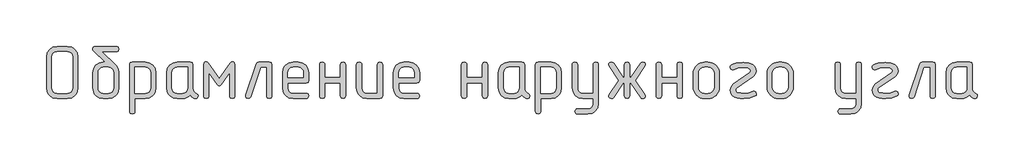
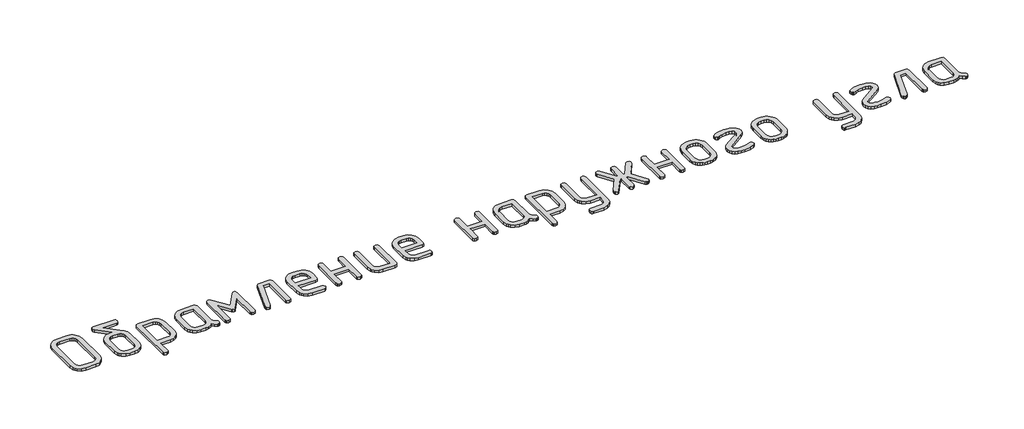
# One storey, part 19 of 37: 1 proxy.
"""IFC4 building model written with IfcOpenShell, lengths in millimetres."""

import ifcopenshell
import ifcopenshell.guid

model = None  # the IFC model being written
_history = None  # IfcOwnerHistory: only IFC2X3 demands one
_inside = {}  # id of a spatial element -> (the spatial element, [elements in it])
_under = {}  # id of a project, library or spatial element -> (it, [spatial elements below it])
_declared = {}  # id of a project -> (the project, [libraries it declares])
_typed = {}  # id of a type object -> (the type object, [elements of that type])
_made_of = {}  # id of a material, layer set ... -> (it, [elements and type objects made of it])


def new_model(schema):
    """Start an empty IFC model of exactly this schema.

    Asked for "IFC4X3", IfcOpenShell would pick the latest addendum, in which some entities
    have other attributes; the version numbers below select the first issue.
    IFC2X3 requires an IfcOwnerHistory on every rooted entity: one is made here for all.
    """
    global model, _history
    if schema == "IFC4X3":
        model = ifcopenshell.file(schema_version=(4, 3, 0, 0))
    else:
        model = ifcopenshell.file(schema=schema)
    _inside.clear()
    _under.clear()
    _declared.clear()
    _typed.clear()
    _made_of.clear()
    _history = None
    if model.schema == "IFC2X3":
        org = make("IfcOrganization", Name="unknown")
        user = make(
            "IfcPersonAndOrganization",
            ThePerson=make("IfcPerson", FamilyName="unknown"),
            TheOrganization=org,
        )
        app = make(
            "IfcApplication",
            ApplicationDeveloper=org,
            Version="unknown",
            ApplicationFullName="unknown",
            ApplicationIdentifier="unknown",
        )
        _history = make(
            "IfcOwnerHistory",
            OwningUser=user,
            OwningApplication=app,
            ChangeAction="ADDED",
            CreationDate=0,
        )
    return model


def make(cls, **values):
    """One entity of the class cls with the attributes given. An attribute that is None is left unset."""
    return model.create_entity(
        cls, **{name: value for name, value in values.items() if value is not None}
    )


def rooted(cls, **values):
    """An entity with a GlobalId (a new one), such as an element, a storey or a relation."""
    return make(cls, GlobalId=ifcopenshell.guid.new(), OwnerHistory=_history, **values)


def si_unit(unit_type, name, prefix=None):
    """IfcSIUnit, for example si_unit("LENGTHUNIT", "METRE", prefix="MILLI")."""
    return make("IfcSIUnit", UnitType=unit_type, Prefix=prefix, Name=name)


def assignment(units):
    """IfcUnitAssignment: the units of a project."""
    return None if units is None else make("IfcUnitAssignment", Units=units)


def point(xyz):
    """IfcCartesianPoint."""
    return None if xyz is None else make("IfcCartesianPoint", Coordinates=xyz)


def direction(xyz):
    """IfcDirection."""
    return None if xyz is None else make("IfcDirection", DirectionRatios=xyz)


def frame(location, z_axis=None, x_axis=None):
    """IfcAxis2Placement3D, a coordinate frame: its origin and axes. An axis left out is left unset."""
    return make(
        "IfcAxis2Placement3D",
        Location=point(location),
        Axis=direction(z_axis),
        RefDirection=direction(x_axis),
    )


def origin():
    """The frame at (0, 0, 0) with its axes left unset."""
    return frame((0.0, 0.0, 0.0))


def origin_with_axes():
    """The frame at (0, 0, 0) with the z axis (0, 0, 1) and the x axis (1, 0, 0) written out."""
    return frame((0.0, 0.0, 0.0), z_axis=(0.0, 0.0, 1.0), x_axis=(1.0, 0.0, 0.0))


def place(relative_to, where):
    """IfcLocalPlacement: puts the frame where relative to a parent placement (None: the world)."""
    return make(
        "IfcLocalPlacement", PlacementRelTo=relative_to, RelativePlacement=where
    )


def context(
    kind, dimensions, precision=None, world=None, true_north=None, identifier=None
):
    """IfcGeometricRepresentationContext, for example the 3D "Model" context."""
    return make(
        "IfcGeometricRepresentationContext",
        ContextIdentifier=identifier,
        ContextType=kind,
        CoordinateSpaceDimension=dimensions,
        Precision=precision,
        WorldCoordinateSystem=world,
        TrueNorth=true_north,
    )


def project(units=None, contexts=None):
    """IfcProject with its units and contexts."""
    return rooted(
        "IfcProject",
        Name="project",
        RepresentationContexts=contexts,
        UnitsInContext=assignment(units),
    )


def spatial(cls, under=None, at=None, **own):
    """A site, building, storey or space (cls), placed at a placement, below another one or the project."""
    s = rooted(cls, ObjectPlacement=at, **own)
    if under is not None:
        _under.setdefault(under.id(), (under, []))[1].append(s)
    return s


def polyline(points):
    """IfcPolyline through the points."""
    return make("IfcPolyline", Points=[point(p) for p in points])


def outline(outer, holes=None, kind="AREA"):
    """IfcArbitraryClosedProfileDef: a profile drawn as a closed curve; with holes, ...WithVoids."""
    if holes is None:
        return make("IfcArbitraryClosedProfileDef", ProfileType=kind, OuterCurve=outer)
    return make(
        "IfcArbitraryProfileDefWithVoids",
        ProfileType=kind,
        OuterCurve=outer,
        InnerCurves=holes,
    )


def extrude(swept, where, along, depth):
    """IfcExtrudedAreaSolid: the profile swept, set in the frame where, extruded along a direction by depth."""
    return make(
        "IfcExtrudedAreaSolid",
        SweptArea=swept,
        Position=where,
        ExtrudedDirection=direction(along),
        Depth=depth,
    )


def shape(context_of_items, identifier, shape_type, items):
    """IfcShapeRepresentation: the items that make up one representation, for example the "Body"."""
    return make(
        "IfcShapeRepresentation",
        ContextOfItems=context_of_items,
        RepresentationIdentifier=identifier,
        RepresentationType=shape_type,
        Items=items,
    )


def made_of(thing, what):
    """Note that an element or type object is made of a material, layer set ...; save() writes the relation."""
    if what is not None:
        _made_of.setdefault(what.id(), (what, []))[1].append(thing)
    return thing


def element(
    cls,
    number,
    at=None,
    inside=None,
    cuts=None,
    type_object=None,
    material=None,
    context=None,
    identifier="Body",
    shape_type=None,
    held_by="IfcProductDefinitionShape",
    body=None,
    shapes=None,
    **own,
):
    """One element of the class cls, such as IfcWall. Its Tag is "e" and its number.

    at: its placement. inside: the storey or other place that contains it. cuts: it is an
    opening in that element (IfcRelVoidsElement). A single representation is given by context,
    identifier, shape_type and body (its items); several are given by shapes. held_by: the class
    of the entity that holds the representations. save() writes the other relations.
    """
    e = rooted(cls, Tag="e%d" % number, ObjectPlacement=at, **own)
    if body is not None:
        shapes = [shape(context, identifier, shape_type, body)]
    if shapes is not None:
        e.Representation = make(held_by, Representations=shapes)
    if inside is not None:
        _inside.setdefault(inside.id(), (inside, []))[1].append(e)
    if cuts is not None:
        rooted(
            "IfcRelVoidsElement", RelatingBuildingElement=cuts, RelatedOpeningElement=e
        )
    if type_object is not None:
        _typed.setdefault(type_object.id(), (type_object, []))[1].append(e)
    return made_of(e, material)


def aggregate(whole, parts):
    """IfcRelAggregates: a whole, such as a stair, and the parts it consists of."""
    return rooted("IfcRelAggregates", RelatingObject=whole, RelatedObjects=parts)


def save(model, path):
    """Write the relations noted so far, then the file.

    IfcRelAggregates (storeys below a building ...), IfcRelContainedInSpatialStructure (elements
    in a storey), IfcRelDefinesByType, IfcRelAssociatesMaterial and IfcRelDeclares: one each for
    every whole, place, type object, material and project.
    """
    for whole, parts in _under.values():
        aggregate(whole, parts)
    for where, things in _inside.values():
        rooted(
            "IfcRelContainedInSpatialStructure",
            RelatedElements=things,
            RelatingStructure=where,
        )
    for kind, things in _typed.values():
        rooted("IfcRelDefinesByType", RelatedObjects=things, RelatingType=kind)
    for what, things in _made_of.values():
        rooted("IfcRelAssociatesMaterial", RelatedObjects=things, RelatingMaterial=what)
    for by, libraries in _declared.values():
        rooted("IfcRelDeclares", RelatingContext=by, RelatedDefinitions=libraries)
    model.write(path)


model = new_model("IFC4")

# Units and contexts
model_context = context("Model", 3, world=origin())
ifc_project = project(units=[si_unit("LENGTHUNIT", "METRE", prefix="MILLI")], contexts=[model_context])

# Site, building, storey
site = spatial("IfcSite", under=ifc_project)
building = spatial("IfcBuilding", under=site)
storey = spatial("IfcBuildingStorey", under=building, Name="Этаж 01", Elevation=0.0)

# Proxy
placement = place(None, origin())
element("IfcBuildingElementProxy", 1, Name="400 мм ГОСТ 2.304", ObjectType="400 мм ГОСТ 2.304", at=placement, inside=storey, context=model_context, shape_type="SweptSolid", body=[
    extrude(outline(polyline([(35529.9614469, -13429.4392879), (35524.0713089, -13460.9629021), (35516.7086364, -13474.7339437), (35506.4008948, -13487.1778083), (35480.7926982, -13504.3931902), (35449.8757935, -13510.1316508), (35369.1834306, -13510.1316508), (35338.1148485, -13504.3931902), (35312.0516197, -13487.1778083), (35301.7438782, -13474.7339437), (35294.3812057, -13460.9629021), (35288.4910677, -13429.4392879), (35288.4910677, -13187.9689087), (35294.3812057, -13156.9003266), (35312.0516197, -13130.8370978), (35338.1148485, -13113.1666838), (35369.1834306, -13107.2765458), (35449.8757935, -13107.2765458), (35480.7926982, -13113.1666838), (35494.260385, -13120.5293563), (35506.4008948, -13130.8370978), (35524.0713089, -13156.9003266), (35529.9614469, -13187.9689087), (35529.9614469, -13429.4392879)]), holes=[polyline([(35489.9186202, -13429.4392879), (35489.9186202, -13187.9689087), (35486.9735512, -13172.2829403), (35478.1383442, -13159.4030033), (35465.1825685, -13150.7953123), (35449.8757935, -13147.926082), (35369.1834306, -13147.926082), (35353.4974622, -13150.7953123), (35340.6175252, -13159.4030033), (35332.0098342, -13172.2829403), (35329.1406039, -13187.9689087), (35329.1406039, -13429.4392879), (35332.0098342, -13445.201095), (35340.6175252, -13458.3085481), (35353.4974622, -13467.1437551), (35369.1834306, -13470.0888241), (35449.8757935, -13470.0888241), (35465.1825685, -13467.1437551), (35478.1383442, -13458.3085481), (35486.9735512, -13445.201095), (35489.9186202, -13429.4392879)])]), origin_with_axes(), (0.0, 0.0, 1.0), 20.0),
    extrude(outline(polyline([(35740.9952331, -13228.6184449), (35650.898873, -13142.0612235), (35645.1351328, -13134.4015161), (35643.2138861, -13125.5789489), (35648.5225942, -13112.5852538), (35655.3101567, -13108.6037228), (35665.0554279, -13107.2765458), (35825.8334443, -13107.2765458), (35834.5928126, -13108.7554002), (35840.8495043, -13113.1919633), (35845.8548576, -13127.9046686), (35840.5461495, -13141.7578688), (35834.2136192, -13146.3840287), (35825.8334443, -13147.926082), (35715.1089613, -13147.926082), (35821.687596, -13249.8532772), (35826.4401538, -13256.3248452), (35841.0011817, -13280.593225), (35845.8548576, -13308.7040983), (35845.8548576, -13429.4392879), (35839.9647196, -13460.9629021), (35832.6020471, -13474.7339437), (35822.2943055, -13487.1778083), (35796.5344315, -13504.3931902), (35765.1624947, -13510.1316508), (35725.119668, -13510.1316508), (35694.0510859, -13504.3931902), (35667.9878572, -13487.1778083), (35657.6801156, -13474.7339437), (35650.3174431, -13460.9629021), (35644.4273051, -13429.4392879), (35644.4273051, -13308.7040983), (35650.3174431, -13278.0905483), (35667.9878572, -13252.178997), (35694.0510859, -13234.5085829), (35725.119668, -13228.6184449), (35740.9952331, -13228.6184449)]), holes=[polyline([(35805.8120309, -13429.4392879), (35805.8120309, -13308.7040983), (35802.8669619, -13293.3973233), (35794.0317549, -13280.4415476), (35780.9243018, -13271.6063406), (35765.1624947, -13268.6612716), (35725.119668, -13268.6612716), (35709.4336996, -13271.6063406), (35696.5537626, -13280.4415476), (35687.9460716, -13293.3973233), (35685.0768413, -13308.7040983), (35685.0768413, -13429.4392879), (35687.9460716, -13445.201095), (35696.5537626, -13458.3085481), (35709.4336996, -13467.1437551), (35725.119668, -13470.0888241), (35765.1624947, -13470.0888241), (35780.9243018, -13467.1437551), (35794.0317549, -13458.3085481), (35802.8669619, -13445.201095), (35805.8120309, -13429.4392879)])]), origin_with_axes(), (0.0, 0.0, 1.0), 20.0),
    extrude(outline(polyline([(35969.8258312, -13510.1316508), (35969.8258312, -13610.8454271), (35968.4228155, -13619.6047955), (35964.2137684, -13625.8614871), (35949.8044179, -13630.8668405), (35935.3445082, -13625.5581324), (35930.7183483, -13619.225602), (35929.176295, -13610.8454271), (35929.176295, -13248.6398582), (35930.4655527, -13239.8804899), (35934.3333257, -13233.6237982), (35949.8044179, -13228.6184449), (36049.9114846, -13228.6184449), (36081.2834215, -13234.3569055), (36107.0432955, -13251.5722875), (36124.7137095, -13277.6355162), (36130.6038476, -13308.7040983), (36130.6038476, -13429.4392879), (36124.7137095, -13460.9629021), (36117.351037, -13474.7339437), (36107.0432955, -13487.1778083), (36081.2834215, -13504.3931902), (36049.9114846, -13510.1316508), (35969.8258312, -13510.1316508)]), holes=[polyline([(35969.8258312, -13470.0888241), (36049.9114846, -13470.0888241), (36065.6732918, -13467.1437551), (36078.7807448, -13458.3085481), (36087.6159518, -13445.201095), (36090.5610209, -13429.4392879), (36090.5610209, -13308.7040983), (36087.6159518, -13293.3973233), (36078.7807448, -13280.4415476), (36065.6732918, -13271.6063406), (36049.9114846, -13268.6612716), (35969.8258312, -13268.6612716), (35969.8258312, -13470.0888241)])]), origin_with_axes(), (0.0, 0.0, 1.0), 20.0),
    extrude(outline(polyline([(36394.7247146, -13483.6386695), (36382.7927612, -13494.2813653), (36368.2317333, -13502.7500186), (36351.9011361, -13508.2862428), (36334.6604746, -13510.1316508), (36294.6176479, -13510.1316508), (36263.5490658, -13504.3931902), (36237.485837, -13487.1778083), (36227.1780955, -13474.7339437), (36219.815423, -13460.9629021), (36213.925285, -13429.4392879), (36213.925285, -13308.7040983), (36219.815423, -13278.0905483), (36237.485837, -13252.178997), (36263.5490658, -13234.5085829), (36294.6176479, -13228.6184449), (36395.3314241, -13228.6184449), (36410.3474842, -13233.6237982), (36415.3528375, -13248.6398582), (36415.3528375, -13429.4392879), (36417.2614445, -13442.4709023), (36422.9872653, -13454.4660546), (36431.8224723, -13464.5399602), (36443.0592378, -13471.8078344), (36452.7665897, -13478.9113914), (36456.0023737, -13489.503528), (36450.3903109, -13504.2667924), (36443.9819418, -13509.1204684), (36435.9809603, -13510.7383603), (36427.6892639, -13508.4126406), (36409.1340652, -13497.7699449), (36394.7247146, -13483.6386695)]), holes=[polyline([(36375.3100108, -13429.4392879), (36375.3100108, -13268.6612716), (36294.6176479, -13268.6612716), (36278.9316795, -13271.6063406), (36266.0517425, -13280.4415476), (36257.4440515, -13293.3973233), (36254.5748212, -13308.7040983), (36254.5748212, -13429.4392879), (36257.4440515, -13445.201095), (36266.0517425, -13458.3085481), (36278.9316795, -13467.1437551), (36294.6176479, -13470.0888241), (36334.6604746, -13470.0888241), (36350.4222817, -13467.1437551), (36363.5297347, -13458.3085481), (36372.3649418, -13445.201095), (36375.3100108, -13429.4392879)])]), origin_with_axes(), (0.0, 0.0, 1.0), 20.0),
    extrude(outline(polyline([(36740.1446541, -13490.1102375), (36738.6657998, -13498.4904124), (36734.2292366, -13504.8229428), (36720.1232408, -13510.1316508), (36705.6633311, -13505.1262975), (36701.4922034, -13498.8696058), (36700.1018274, -13490.1102375), (36700.1018274, -13311.029818), (36635.8917392, -13401.2272964), (36627.6253223, -13409.1145198), (36619.4094645, -13411.7435943), (36610.890252, -13409.1145198), (36602.9271899, -13401.2272964), (36539.3238111, -13311.029818), (36539.3238111, -13490.1102375), (36537.7817578, -13498.4904124), (36533.1555979, -13504.8229428), (36519.3023977, -13510.1316508), (36504.2863377, -13505.1262975), (36500.0772906, -13498.8696058), (36498.6742749, -13490.1102375), (36498.6742749, -13248.6398582), (36503.6796282, -13231.2475194), (36509.35489, -13226.6213595), (36516.3699685, -13225.0793062), (36526.7851482, -13228.037015), (36535.7846724, -13236.9101413), (36619.4094645, -13354.6117835), (36703.6409662, -13236.9101413), (36712.7416086, -13228.037015), (36722.4489605, -13225.0793062), (36729.4640391, -13226.6213595), (36735.1393008, -13231.2475194), (36740.1446541, -13248.6398582), (36740.1446541, -13490.1102375)])), origin_with_axes(), (0.0, 0.0, 1.0), 20.0),
    extrude(outline(polyline([(37023.6802251, -13490.1102375), (37022.2772094, -13498.8696058), (37018.0681623, -13505.1262975), (37003.6588117, -13510.1316508), (36989.5022568, -13504.8229428), (36985.103613, -13498.4904124), (36983.6373984, -13490.1102375), (36983.6373984, -13268.6612716), (36937.1230037, -13268.6612716), (36861.6887898, -13496.5818054), (36854.3577167, -13506.5925121), (36843.4875049, -13510.1316508), (36829.0275953, -13504.8229428), (36824.4014353, -13498.6420898), (36822.859382, -13490.716947), (36824.072801, -13483.6386695), (36903.551745, -13242.1682903), (36910.7311407, -13232.0059062), (36922.9664488, -13228.6184449), (37003.6588117, -13228.6184449), (37018.6748718, -13233.6237982), (37023.6802251, -13248.6398582), (37023.6802251, -13490.1102375)])), origin_with_axes(), (0.0, 0.0, 1.0), 20.0),
    extrude(outline(polyline([(37147.6511987, -13389.3964612), (37147.6511987, -13429.4392879), (37150.520429, -13445.201095), (37159.12812, -13458.3085481), (37172.008057, -13467.1437551), (37187.6940254, -13470.0888241), (37288.4078017, -13470.0888241), (37297.16717, -13471.4918398), (37303.4238617, -13475.700887), (37308.429215, -13490.1102375), (37303.1205069, -13503.9634376), (37296.7879766, -13508.5895975), (37288.4078017, -13510.1316508), (37187.6940254, -13510.1316508), (37156.6254433, -13504.3931902), (37130.5622146, -13487.1778083), (37120.254473, -13474.7339437), (37112.8918005, -13460.9629021), (37107.0016625, -13429.4392879), (37107.0016625, -13308.7040983), (37112.8918005, -13277.7871936), (37120.254473, -13264.3195068), (37130.5622146, -13252.178997), (37156.6254433, -13234.5085829), (37187.6940254, -13228.6184449), (37227.7368521, -13228.6184449), (37259.1087889, -13234.3569055), (37284.868663, -13251.5722875), (37302.539077, -13277.6355162), (37308.429215, -13308.7040983), (37308.429215, -13369.3750479), (37303.4238617, -13384.3911079), (37288.4078017, -13389.3964612), (37147.6511987, -13389.3964612)]), holes=[polyline([(37147.6511987, -13349.3536345), (37268.3863883, -13349.3536345), (37268.3863883, -13308.7040983), (37265.4413193, -13293.3973233), (37256.6061123, -13280.4415476), (37243.4986592, -13271.6063406), (37227.7368521, -13268.6612716), (37187.6940254, -13268.6612716), (37172.008057, -13271.6063406), (37159.12812, -13280.4415476), (37150.520429, -13293.3973233), (37147.6511987, -13308.7040983), (37147.6511987, -13349.3536345)])]), origin_with_axes(), (0.0, 0.0, 1.0), 20.0),
    extrude(outline(polyline([(37553.1353783, -13349.3536345), (37553.1353783, -13248.6398582), (37554.6015929, -13240.2596833), (37559.0002367, -13233.927153), (37573.1567916, -13228.6184449), (37587.2627874, -13233.6237982), (37591.6993506, -13239.8804899), (37593.178205, -13248.6398582), (37593.178205, -13490.1102375), (37591.7751893, -13498.8696058), (37587.5661421, -13505.1262975), (37573.1567916, -13510.1316508), (37559.0002367, -13504.8229428), (37554.6015929, -13498.4904124), (37553.1353783, -13490.1102375), (37553.1353783, -13389.3964612), (37432.4001886, -13389.3964612), (37432.4001886, -13490.1102375), (37430.9971729, -13498.8696058), (37426.7881258, -13505.1262975), (37412.3787753, -13510.1316508), (37397.9188656, -13504.8229428), (37393.2927057, -13498.4904124), (37391.7506524, -13490.1102375), (37391.7506524, -13248.6398582), (37393.2295068, -13240.2596833), (37397.66607, -13233.927153), (37412.3787753, -13228.6184449), (37426.2319754, -13233.6237982), (37430.8581353, -13239.8804899), (37432.4001886, -13248.6398582), (37432.4001886, -13349.3536345), (37553.1353783, -13349.3536345)])), origin_with_axes(), (0.0, 0.0, 1.0), 20.0),
    extrude(outline(polyline([(37877.9271949, -13490.1102375), (37872.9218416, -13505.1262975), (37857.9057815, -13510.1316508), (37757.1920053, -13510.1316508), (37726.1234232, -13504.3931902), (37700.0601944, -13487.1778083), (37689.7524529, -13474.7339437), (37682.3897804, -13460.9629021), (37676.4996424, -13429.4392879), (37676.4996424, -13248.6398582), (37677.9784968, -13240.2596833), (37682.4150599, -13233.927153), (37697.1277652, -13228.6184449), (37710.9809654, -13233.6237982), (37715.6071253, -13239.8804899), (37717.1491786, -13248.6398582), (37717.1491786, -13429.4392879), (37720.0184089, -13445.201095), (37728.6260999, -13458.3085481), (37741.5060369, -13467.1437551), (37757.1920053, -13470.0888241), (37837.8843682, -13470.0888241), (37837.8843682, -13248.6398582), (37839.3505828, -13240.2596833), (37843.7492267, -13233.927153), (37857.9057815, -13228.6184449), (37872.0117773, -13233.6237982), (37876.4483405, -13239.8804899), (37877.9271949, -13248.6398582), (37877.9271949, -13490.1102375)])), origin_with_axes(), (0.0, 0.0, 1.0), 20.0),
    extrude(outline(polyline([(38001.8981685, -13389.3964612), (38001.8981685, -13429.4392879), (38004.7673988, -13445.201095), (38013.3750898, -13458.3085481), (38026.2550268, -13467.1437551), (38041.9409952, -13470.0888241), (38142.6547715, -13470.0888241), (38151.4141398, -13471.4918398), (38157.6708315, -13475.700887), (38162.6761848, -13490.1102375), (38157.3674768, -13503.9634376), (38151.0349464, -13508.5895975), (38142.6547715, -13510.1316508), (38041.9409952, -13510.1316508), (38010.8724131, -13504.3931902), (37984.8091844, -13487.1778083), (37974.5014428, -13474.7339437), (37967.1387703, -13460.9629021), (37961.2486323, -13429.4392879), (37961.2486323, -13308.7040983), (37967.1387703, -13277.7871936), (37974.5014428, -13264.3195068), (37984.8091844, -13252.178997), (38010.8724131, -13234.5085829), (38041.9409952, -13228.6184449), (38081.9838219, -13228.6184449), (38113.3557588, -13234.3569055), (38139.1156328, -13251.5722875), (38156.7860468, -13277.6355162), (38162.6761848, -13308.7040983), (38162.6761848, -13369.3750479), (38157.6708315, -13384.3911079), (38142.6547715, -13389.3964612), (38001.8981685, -13389.3964612)]), holes=[polyline([(38001.8981685, -13349.3536345), (38122.6333581, -13349.3536345), (38122.6333581, -13308.7040983), (38119.6882891, -13293.3973233), (38110.8530821, -13280.4415476), (38097.745629, -13271.6063406), (38081.9838219, -13268.6612716), (38041.9409952, -13268.6612716), (38026.2550268, -13271.6063406), (38013.3750898, -13280.4415476), (38004.7673988, -13293.3973233), (38001.8981685, -13308.7040983), (38001.8981685, -13349.3536345)])]), origin_with_axes(), (0.0, 0.0, 1.0), 20.0),
    extrude(outline(polyline([(38646.8303623, -13349.3536345), (38646.8303623, -13248.6398582), (38648.2965769, -13240.2596833), (38652.6952208, -13233.927153), (38666.8517757, -13228.6184449), (38680.9577715, -13233.6237982), (38685.3943346, -13239.8804899), (38686.873189, -13248.6398582), (38686.873189, -13490.1102375), (38685.4701733, -13498.8696058), (38681.2611262, -13505.1262975), (38666.8517757, -13510.1316508), (38652.6952208, -13504.8229428), (38648.2965769, -13498.4904124), (38646.8303623, -13490.1102375), (38646.8303623, -13389.3964612), (38526.0951727, -13389.3964612), (38526.0951727, -13490.1102375), (38524.692157, -13498.8696058), (38520.4831099, -13505.1262975), (38506.0737594, -13510.1316508), (38491.6138497, -13504.8229428), (38486.9876898, -13498.4904124), (38485.4456365, -13490.1102375), (38485.4456365, -13248.6398582), (38486.9244909, -13240.2596833), (38491.3610541, -13233.927153), (38506.0737594, -13228.6184449), (38519.9269595, -13233.6237982), (38524.5531194, -13239.8804899), (38526.0951727, -13248.6398582), (38526.0951727, -13349.3536345), (38646.8303623, -13349.3536345)])), origin_with_axes(), (0.0, 0.0, 1.0), 20.0),
    extrude(outline(polyline([(38950.9940561, -13483.6386695), (38939.0621027, -13494.2813653), (38924.5010748, -13502.7500186), (38908.1704776, -13508.2862428), (38890.9298161, -13510.1316508), (38850.8869894, -13510.1316508), (38819.8184073, -13504.3931902), (38793.7551785, -13487.1778083), (38783.447437, -13474.7339437), (38776.0847645, -13460.9629021), (38770.1946264, -13429.4392879), (38770.1946264, -13308.7040983), (38776.0847645, -13278.0905483), (38793.7551785, -13252.178997), (38819.8184073, -13234.5085829), (38850.8869894, -13228.6184449), (38951.6007656, -13228.6184449), (38966.6168256, -13233.6237982), (38971.622179, -13248.6398582), (38971.622179, -13429.4392879), (38973.5307859, -13442.4709023), (38979.2566068, -13454.4660546), (38988.0918138, -13464.5399602), (38999.3285793, -13471.8078344), (39009.0359312, -13478.9113914), (39012.2717152, -13489.503528), (39006.6596524, -13504.2667924), (39000.2512833, -13509.1204684), (38992.2503018, -13510.7383603), (38983.9586054, -13508.4126406), (38965.4034067, -13497.7699449), (38950.9940561, -13483.6386695)]), holes=[polyline([(38931.5793523, -13429.4392879), (38931.5793523, -13268.6612716), (38850.8869894, -13268.6612716), (38835.2010209, -13271.6063406), (38822.3210839, -13280.4415476), (38813.713393, -13293.3973233), (38810.8441626, -13308.7040983), (38810.8441626, -13429.4392879), (38813.713393, -13445.201095), (38822.3210839, -13458.3085481), (38835.2010209, -13467.1437551), (38850.8869894, -13470.0888241), (38890.9298161, -13470.0888241), (38906.6916232, -13467.1437551), (38919.7990762, -13458.3085481), (38928.6342833, -13445.201095), (38931.5793523, -13429.4392879)])]), origin_with_axes(), (0.0, 0.0, 1.0), 20.0),
    extrude(outline(polyline([(39095.5931526, -13510.1316508), (39095.5931526, -13610.8454271), (39094.1901369, -13619.6047955), (39089.9810897, -13625.8614871), (39075.5717392, -13630.8668405), (39061.1118296, -13625.5581324), (39056.4856697, -13619.225602), (39054.9436164, -13610.8454271), (39054.9436164, -13248.6398582), (39056.2328741, -13239.8804899), (39060.1006471, -13233.6237982), (39075.5717392, -13228.6184449), (39175.678806, -13228.6184449), (39207.0507428, -13234.3569055), (39232.8106168, -13251.5722875), (39250.4810309, -13277.6355162), (39256.3711689, -13308.7040983), (39256.3711689, -13429.4392879), (39250.4810309, -13460.9629021), (39243.1183584, -13474.7339437), (39232.8106168, -13487.1778083), (39207.0507428, -13504.3931902), (39175.678806, -13510.1316508), (39095.5931526, -13510.1316508)]), holes=[polyline([(39095.5931526, -13470.0888241), (39175.678806, -13470.0888241), (39191.4406131, -13467.1437551), (39204.5480662, -13458.3085481), (39213.3832732, -13445.201095), (39216.3283422, -13429.4392879), (39216.3283422, -13308.7040983), (39213.3832732, -13293.3973233), (39204.5480662, -13280.4415476), (39191.4406131, -13271.6063406), (39175.678806, -13268.6612716), (39095.5931526, -13268.6612716), (39095.5931526, -13470.0888241)])]), origin_with_axes(), (0.0, 0.0, 1.0), 20.0),
    extrude(outline(polyline([(39501.0773321, -13510.1316508), (39420.3849692, -13510.1316508), (39389.3163871, -13504.3931902), (39363.2531584, -13487.1778083), (39352.9454169, -13474.7339437), (39345.5827443, -13460.9629021), (39339.6926063, -13429.4392879), (39339.6926063, -13248.6398582), (39341.1714607, -13240.2596833), (39345.6080239, -13233.927153), (39360.3207292, -13228.6184449), (39374.1739293, -13233.6237982), (39378.8000892, -13239.8804899), (39380.3421425, -13248.6398582), (39380.3421425, -13429.4392879), (39383.2113728, -13445.201095), (39391.8190638, -13458.3085481), (39404.6990008, -13467.1437551), (39420.3849692, -13470.0888241), (39501.0773321, -13470.0888241), (39501.0773321, -13248.6398582), (39502.5435468, -13240.2596833), (39506.9421906, -13233.927153), (39521.0987455, -13228.6184449), (39535.2047413, -13233.6237982), (39539.6413045, -13239.8804899), (39541.1201589, -13248.6398582), (39541.1201589, -13550.1744776), (39535.3816982, -13581.5464144), (39518.1663163, -13607.3062884), (39505.7224517, -13617.6140299), (39491.9514102, -13624.9767024), (39460.4277959, -13630.8668405), (39380.3421425, -13630.8668405), (39371.9619676, -13629.3879861), (39365.6294373, -13624.9514229), (39360.3207292, -13610.8454271), (39365.3260825, -13596.6888722), (39371.5827742, -13592.2902284), (39380.3421425, -13590.8240138), (39460.4277959, -13590.8240138), (39476.189603, -13587.8789447), (39489.2970561, -13579.0437377), (39498.1322631, -13565.9362847), (39501.0773321, -13550.1744776), (39501.0773321, -13510.1316508)])), origin_with_axes(), (0.0, 0.0, 1.0), 20.0),
    extrude(outline(polyline([(39791.084471, -13349.3536345), (39865.305266, -13237.4157326), (39872.6616186, -13230.3627347), (39881.7875406, -13228.0117354), (39896.550805, -13233.927153), (39901.404481, -13240.5630381), (39903.022373, -13248.6398582), (39899.4832343, -13259.8639839), (39826.4758583, -13369.3750479), (39899.4832343, -13478.8861118), (39903.022373, -13490.716947), (39901.404481, -13498.0227405), (39896.550805, -13504.5701471), (39889.4725276, -13509.196307), (39881.1808311, -13510.7383603), (39872.2065865, -13508.387361), (39865.305266, -13501.3343632), (39791.084471, -13389.3964612), (39781.6804739, -13389.3964612), (39781.6804739, -13490.1102375), (39780.2774582, -13498.8696058), (39776.068411, -13505.1262975), (39761.6590605, -13510.1316508), (39747.5025056, -13504.8229428), (39743.1038618, -13498.4904124), (39741.6376472, -13490.1102375), (39741.6376472, -13389.3964612), (39732.23365, -13389.3964612), (39657.4061455, -13501.3343632), (39650.3531476, -13508.387361), (39640.9238709, -13510.7383603), (39626.767316, -13504.5701471), (39621.91364, -13497.8710631), (39620.295748, -13490.1102375), (39623.8348868, -13478.8861118), (39696.8422627, -13369.3750479), (39623.8348868, -13259.8639839), (39620.295748, -13248.0331487), (39621.91364, -13240.4113607), (39626.767316, -13233.927153), (39641.5305804, -13228.0117354), (39650.504825, -13230.3627347), (39657.4061455, -13237.4157326), (39732.23365, -13349.3536345), (39741.6376472, -13349.3536345), (39741.6376472, -13248.6398582), (39743.0406629, -13240.2596833), (39747.24971, -13233.927153), (39761.6590605, -13228.6184449), (39775.5122607, -13233.6237982), (39780.1384206, -13239.8804899), (39781.6804739, -13248.6398582), (39781.6804739, -13349.3536345), (39791.084471, -13349.3536345)])), origin_with_axes(), (0.0, 0.0, 1.0), 20.0),
    extrude(outline(polyline([(40148.2341275, -13349.3536345), (40148.2341275, -13248.6398582), (40149.7003421, -13240.2596833), (40154.0989859, -13233.927153), (40168.2555408, -13228.6184449), (40182.3615366, -13233.6237982), (40186.7980998, -13239.8804899), (40188.2769542, -13248.6398582), (40188.2769542, -13490.1102375), (40186.8739385, -13498.8696058), (40182.6648913, -13505.1262975), (40168.2555408, -13510.1316508), (40154.0989859, -13504.8229428), (40149.7003421, -13498.4904124), (40148.2341275, -13490.1102375), (40148.2341275, -13389.3964612), (40027.4989378, -13389.3964612), (40027.4989378, -13490.1102375), (40026.0959221, -13498.8696058), (40021.886875, -13505.1262975), (40007.4775245, -13510.1316508), (39993.0176148, -13504.8229428), (39988.3914549, -13498.4904124), (39986.8494016, -13490.1102375), (39986.8494016, -13248.6398582), (39988.328256, -13240.2596833), (39992.7648192, -13233.927153), (40007.4775245, -13228.6184449), (40021.3307246, -13233.6237982), (40025.9568845, -13239.8804899), (40027.4989378, -13248.6398582), (40027.4989378, -13349.3536345), (40148.2341275, -13349.3536345)])), origin_with_axes(), (0.0, 0.0, 1.0), 20.0),
    extrude(outline(polyline([(40473.0259441, -13421.754301), (40471.4080521, -13439.6143118), (40466.5543762, -13456.0839466), (40458.4649162, -13471.1632055), (40447.1396723, -13484.8520885), (40433.7162247, -13495.911897), (40418.8265625, -13503.8117603), (40402.4706857, -13508.5516782), (40384.6485942, -13510.1316508), (40360.4813327, -13510.1316508), (40342.6655611, -13508.5516782), (40326.2275257, -13503.8117603), (40311.1672265, -13495.911897), (40297.4846634, -13484.8520885), (40286.1594195, -13471.1632055), (40278.0699595, -13456.0839466), (40273.2162836, -13439.6143118), (40271.5983916, -13421.754301), (40271.5983916, -13316.9957947), (40273.2162836, -13299.4012194), (40278.0699595, -13283.1211812), (40286.1594195, -13268.1556803), (40297.4846634, -13254.5047167), (40311.5843393, -13243.1794728), (40326.7836761, -13235.0900128), (40343.0826739, -13230.2363369), (40360.4813327, -13228.6184449), (40384.6485942, -13228.6184449), (40402.2400097, -13230.2394968), (40418.510568, -13235.1026526), (40433.4602691, -13243.2079123), (40447.0891132, -13254.5552758), (40458.4364767, -13268.1841199), (40466.5417364, -13283.133821), (40471.4048922, -13299.4043793), (40473.0259441, -13316.9957947), (40473.0259441, -13421.754301)]), holes=[polyline([(40432.9831174, -13421.754301), (40432.9831174, -13316.9957947), (40429.4439787, -13298.440596), (40418.8265625, -13282.8178265), (40403.203793, -13272.2004103), (40384.6485942, -13268.6612716), (40360.4813327, -13268.6612716), (40341.9387737, -13272.2004103), (40326.3539235, -13282.8178265), (40315.7744267, -13298.440596), (40312.2479278, -13316.9957947), (40312.2479278, -13421.754301), (40315.7744267, -13440.3094997), (40326.3539235, -13455.9322692), (40341.9387737, -13466.5496854), (40360.4813327, -13470.0888241), (40384.6485942, -13470.0888241), (40403.203793, -13466.5496854), (40418.8265625, -13455.9322692), (40429.4439787, -13440.3094997), (40432.9831174, -13421.754301)])]), origin_with_axes(), (0.0, 0.0, 1.0), 20.0),
    extrude(outline(polyline([(40747.1575179, -13491.8292477), (40707.3674868, -13506.0363617), (40661.8137155, -13510.7383603), (40633.8039604, -13509.2721457), (40609.9400536, -13505.3790931), (40588.0479526, -13498.4651328), (40571.9195919, -13484.8015294), (40561.9847239, -13466.4106478), (40558.6731012, -13445.3148531), (40563.9818093, -13419.4285813), (40570.7693718, -13407.8252621), (40580.5146431, -13397.6881577), (40708.8337014, -13309.3108078), (40715.4063876, -13296.9743814), (40710.2493569, -13284.2840411), (40694.7782648, -13275.739549), (40673.6698302, -13271.3409052), (40649.3761708, -13269.8746906), (40614.1870201, -13273.5402271), (40588.7052213, -13284.5368367), (40576.3687949, -13289.2893944), (40568.7470068, -13287.7473411), (40562.2627991, -13283.1211812), (40557.8262359, -13276.2704199), (40556.3473815, -13268.0545621), (40558.4203056, -13259.8387043), (40564.6390779, -13252.7857065), (40581.2983095, -13243.3564297), (40603.1651309, -13236.3034318), (40652.9153096, -13230.4385734), (40659.993587, -13230.4385734), (40698.8735538, -13235.140572), (40729.4618242, -13248.3870626), (40740.9387455, -13257.8036996), (40749.4832376, -13268.9646263), (40754.7919457, -13281.5285688), (40756.5615151, -13295.7609624), (40750.8230544, -13319.5995897), (40733.6076725, -13340.5563468), (40605.1874959, -13429.4392879), (40599.9546265, -13436.5175654), (40598.2103367, -13444.8092618), (40603.21569, -13458.6119028), (40616.4116216, -13466.5496854), (40638.505959, -13468.9259643), (40662.3193067, -13470.0888241), (40697.9634896, -13467.1563949), (40728.3495235, -13455.9322692), (40738.3602302, -13453.6065495), (40746.3612117, -13455.1486028), (40752.7695807, -13459.7747627), (40758.3816435, -13474.8413818), (40755.5756121, -13484.649852), (40747.1575179, -13491.8292477)])), origin_with_axes(), (0.0, 0.0, 1.0), 20.0),
    extrude(outline(polyline([(41042.523924, -13421.754301), (41040.906032, -13439.6143118), (41036.052356, -13456.0839466), (41027.9628961, -13471.1632055), (41016.6376522, -13484.8520885), (41003.2142046, -13495.911897), (40988.3245424, -13503.8117603), (40971.9686656, -13508.5516782), (40954.1465741, -13510.1316508), (40929.9793125, -13510.1316508), (40912.163541, -13508.5516782), (40895.7255056, -13503.8117603), (40880.6652064, -13495.911897), (40866.9826433, -13484.8520885), (40855.6573993, -13471.1632055), (40847.5679394, -13456.0839466), (40842.7142634, -13439.6143118), (40841.0963714, -13421.754301), (40841.0963714, -13316.9957947), (40842.7142634, -13299.4012194), (40847.5679394, -13283.1211812), (40855.6573993, -13268.1556803), (40866.9826433, -13254.5047167), (40881.0823191, -13243.1794728), (40896.281656, -13235.0900128), (40912.5806538, -13230.2363369), (40929.9793125, -13228.6184449), (40954.1465741, -13228.6184449), (40971.7379895, -13230.2394968), (40988.0085478, -13235.1026526), (41002.958249, -13243.2079123), (41016.587093, -13254.5552758), (41027.9344566, -13268.1841199), (41036.0397162, -13283.133821), (41040.902872, -13299.4043793), (41042.523924, -13316.9957947), (41042.523924, -13421.754301)]), holes=[polyline([(41002.4810973, -13421.754301), (41002.4810973, -13316.9957947), (40998.9419585, -13298.440596), (40988.3245424, -13282.8178265), (40972.7017729, -13272.2004103), (40954.1465741, -13268.6612716), (40929.9793125, -13268.6612716), (40911.4367536, -13272.2004103), (40895.8519034, -13282.8178265), (40885.2724066, -13298.440596), (40881.7459076, -13316.9957947), (40881.7459076, -13421.754301), (40885.2724066, -13440.3094997), (40895.8519034, -13455.9322692), (40911.4367536, -13466.5496854), (40929.9793125, -13470.0888241), (40954.1465741, -13470.0888241), (40972.7017729, -13466.5496854), (40988.3245424, -13455.9322692), (40998.9419585, -13440.3094997), (41002.4810973, -13421.754301)])]), origin_with_axes(), (0.0, 0.0, 1.0), 20.0),
    extrude(outline(polyline([(41526.6781015, -13510.1316508), (41445.9857386, -13510.1316508), (41414.9171565, -13504.3931902), (41388.8539277, -13487.1778083), (41378.5461862, -13474.7339437), (41371.1835137, -13460.9629021), (41365.2933756, -13429.4392879), (41365.2933756, -13248.6398582), (41366.77223, -13240.2596833), (41371.2087932, -13233.927153), (41385.9214985, -13228.6184449), (41399.7746986, -13233.6237982), (41404.4008585, -13239.8804899), (41405.9429118, -13248.6398582), (41405.9429118, -13429.4392879), (41408.8121422, -13445.201095), (41417.4198331, -13458.3085481), (41430.2997701, -13467.1437551), (41445.9857386, -13470.0888241), (41526.6781015, -13470.0888241), (41526.6781015, -13248.6398582), (41528.1443161, -13240.2596833), (41532.5429599, -13233.927153), (41546.6995148, -13228.6184449), (41560.8055106, -13233.6237982), (41565.2420738, -13239.8804899), (41566.7209282, -13248.6398582), (41566.7209282, -13550.1744776), (41560.9824675, -13581.5464144), (41543.7670856, -13607.3062884), (41531.323221, -13617.6140299), (41517.5521795, -13624.9767024), (41486.0285653, -13630.8668405), (41405.9429118, -13630.8668405), (41397.5627369, -13629.3879861), (41391.2302066, -13624.9514229), (41385.9214985, -13610.8454271), (41390.9268518, -13596.6888722), (41397.1835435, -13592.2902284), (41405.9429118, -13590.8240138), (41486.0285653, -13590.8240138), (41501.7903724, -13587.8789447), (41514.8978254, -13579.0437377), (41523.7330325, -13565.9362847), (41526.6781015, -13550.1744776), (41526.6781015, -13510.1316508)])), origin_with_axes(), (0.0, 0.0, 1.0), 20.0),
    extrude(outline(polyline([(41840.8525019, -13491.8292477), (41801.0624709, -13506.0363617), (41755.5086996, -13510.7383603), (41727.4989445, -13509.2721457), (41703.6350377, -13505.3790931), (41681.7429367, -13498.4651328), (41665.614576, -13484.8015294), (41655.679708, -13466.4106478), (41652.3680853, -13445.3148531), (41657.6767934, -13419.4285813), (41664.4643559, -13407.8252621), (41674.2096272, -13397.6881577), (41802.5286855, -13309.3108078), (41809.1013717, -13296.9743814), (41803.944341, -13284.2840411), (41788.4732488, -13275.739549), (41767.3648143, -13271.3409052), (41743.0711549, -13269.8746906), (41707.8820042, -13273.5402271), (41682.4002053, -13284.5368367), (41670.0637789, -13289.2893944), (41662.4419909, -13287.7473411), (41655.9577832, -13283.1211812), (41651.52122, -13276.2704199), (41650.0423656, -13268.0545621), (41652.1152897, -13259.8387043), (41658.334062, -13252.7857065), (41674.9932936, -13243.3564297), (41696.860115, -13236.3034318), (41746.6102936, -13230.4385734), (41753.6885711, -13230.4385734), (41792.5685379, -13235.140572), (41823.1568083, -13248.3870626), (41834.6337296, -13257.8036996), (41843.1782217, -13268.9646263), (41848.4869298, -13281.5285688), (41850.2564991, -13295.7609624), (41844.5180385, -13319.5995897), (41827.3026565, -13340.5563468), (41698.88248, -13429.4392879), (41693.6496106, -13436.5175654), (41691.9053208, -13444.8092618), (41696.9106741, -13458.6119028), (41710.1066056, -13466.5496854), (41732.2009431, -13468.9259643), (41756.0142908, -13470.0888241), (41791.6584737, -13467.1563949), (41822.0445076, -13455.9322692), (41832.0552143, -13453.6065495), (41840.0561957, -13455.1486028), (41846.4645648, -13459.7747627), (41852.0766276, -13474.8413818), (41849.2705962, -13484.649852), (41840.8525019, -13491.8292477)])), origin_with_axes(), (0.0, 0.0, 1.0), 20.0),
    extrude(outline(polyline([(42136.2189081, -13490.1102375), (42134.8158923, -13498.8696058), (42130.6068452, -13505.1262975), (42116.1974947, -13510.1316508), (42102.0409398, -13504.8229428), (42097.642296, -13498.4904124), (42096.1760813, -13490.1102375), (42096.1760813, -13268.6612716), (42049.6616867, -13268.6612716), (41974.2274727, -13496.5818054), (41966.8963997, -13506.5925121), (41956.0261879, -13510.1316508), (41941.5662782, -13504.8229428), (41936.9401183, -13498.6420898), (41935.398065, -13490.716947), (41936.611484, -13483.6386695), (42016.0904279, -13242.1682903), (42023.2698236, -13232.0059062), (42035.5051318, -13228.6184449), (42116.1974947, -13228.6184449), (42131.2135547, -13233.6237982), (42136.2189081, -13248.6398582), (42136.2189081, -13490.1102375)])), origin_with_axes(), (0.0, 0.0, 1.0), 20.0),
    extrude(outline(polyline([(42400.3397751, -13483.6386695), (42388.4078217, -13494.2813653), (42373.8467938, -13502.7500186), (42357.5161966, -13508.2862428), (42340.2755351, -13510.1316508), (42300.2327084, -13510.1316508), (42269.1641263, -13504.3931902), (42243.1008975, -13487.1778083), (42232.793156, -13474.7339437), (42225.4304835, -13460.9629021), (42219.5403455, -13429.4392879), (42219.5403455, -13308.7040983), (42225.4304835, -13278.0905483), (42243.1008975, -13252.178997), (42269.1641263, -13234.5085829), (42300.2327084, -13228.6184449), (42400.9464846, -13228.6184449), (42415.9625447, -13233.6237982), (42420.967898, -13248.6398582), (42420.967898, -13429.4392879), (42422.876505, -13442.4709023), (42428.6023258, -13454.4660546), (42437.4375328, -13464.5399602), (42448.6742983, -13471.8078344), (42458.3816502, -13478.9113914), (42461.6174342, -13489.503528), (42456.0053714, -13504.2667924), (42449.5970023, -13509.1204684), (42441.5960208, -13510.7383603), (42433.3043244, -13508.4126406), (42414.7491257, -13497.7699449), (42400.3397751, -13483.6386695)]), holes=[polyline([(42380.9250713, -13429.4392879), (42380.9250713, -13268.6612716), (42300.2327084, -13268.6612716), (42284.54674, -13271.6063406), (42271.666803, -13280.4415476), (42263.059112, -13293.3973233), (42260.1898817, -13308.7040983), (42260.1898817, -13429.4392879), (42263.059112, -13445.201095), (42271.666803, -13458.3085481), (42284.54674, -13467.1437551), (42300.2327084, -13470.0888241), (42340.2755351, -13470.0888241), (42356.0373422, -13467.1437551), (42369.1447952, -13458.3085481), (42377.9800023, -13445.201095), (42380.9250713, -13429.4392879)])]), origin_with_axes(), (0.0, 0.0, 1.0), 20.0),
])

save(model, "model.ifc")
